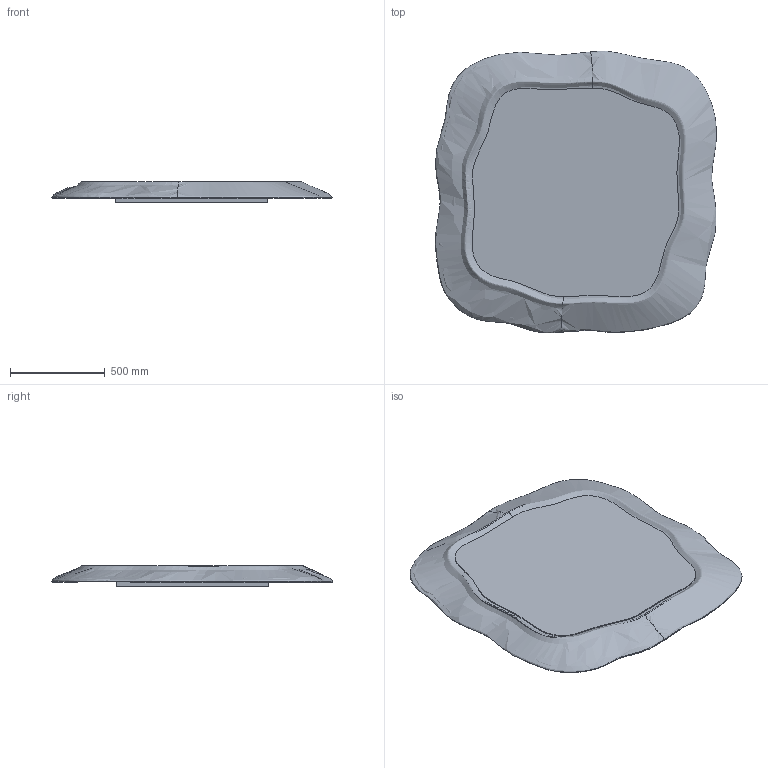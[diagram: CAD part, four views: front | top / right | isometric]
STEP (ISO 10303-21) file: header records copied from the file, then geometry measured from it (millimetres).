
FILE_DESCRIPTION(/* description */ (''),/* implementation_level */ '2;1');
FILE_NAME(/* name */ 'STI150',/* time_stamp */ '2026-07-03T15:44:01+02:00',/* author */ (''),/* organization */ (''),/* preprocessor_version */ 'ST-DEVELOPER v16.5',/* originating_system */ '',/* authorisation */ '');
FILE_SCHEMA (('AUTOMOTIVE_DESIGN'));
Length unit declared in the file: millimetre
Products named in the file (1): Document
Bounding box: 1480.36 x 1482.03 x 106.05 mm (x, y, z)
Volume: 31862410 mm3; surface area: 7431721.1 mm2
Topology: 6 solids, 6 shells, 41 faces, 86 edges, 53 vertices
Faces by surface type: plane 31, bspline 10
Entity records: 39676 total; most frequent: CARTESIAN_POINT 38976, ORIENTED_EDGE 164, EDGE_CURVE 82, B_SPLINE_CURVE_WITH_KNOTS 82, VERTEX_POINT 53, EDGE_LOOP 43, ADVANCED_FACE 41, FACE_OUTER_BOUND 41
